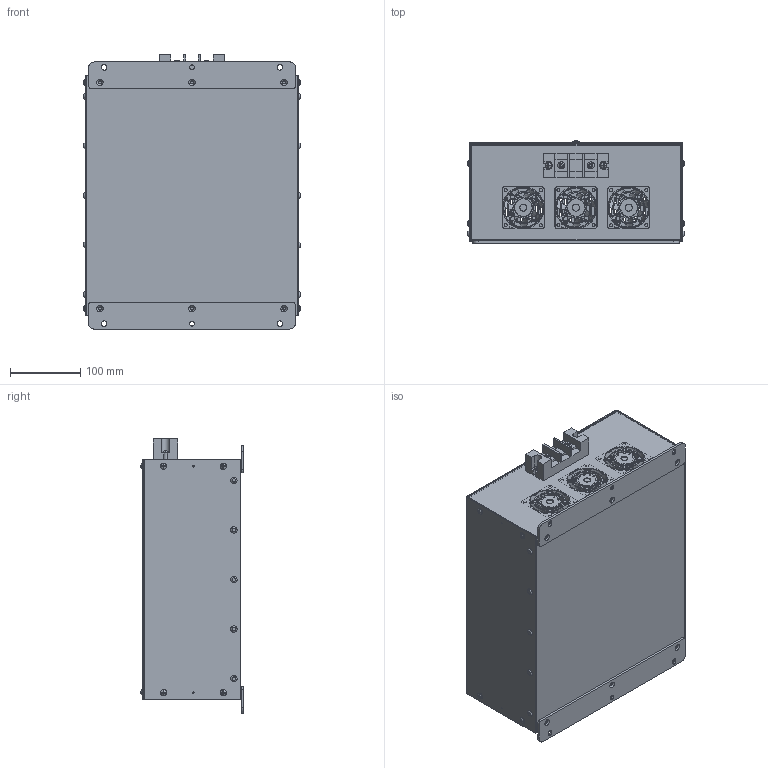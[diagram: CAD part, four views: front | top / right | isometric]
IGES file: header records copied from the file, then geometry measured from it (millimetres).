
Global section: file name: X4; native system: Autodesk Inventor 2021; preprocessor: unknown; author: EunSol Jang; date: 20211210.162426; units: millimetre
Bounding box: 309.24 x 145.97 x 390 mm (x, y, z)
Volume: 721593 mm3; surface area: 919789.7 mm2
Topology: 3 solids, 3 shells, 2412 faces, 6525 edges, 4233 vertices
Faces by surface type: bspline 2412
